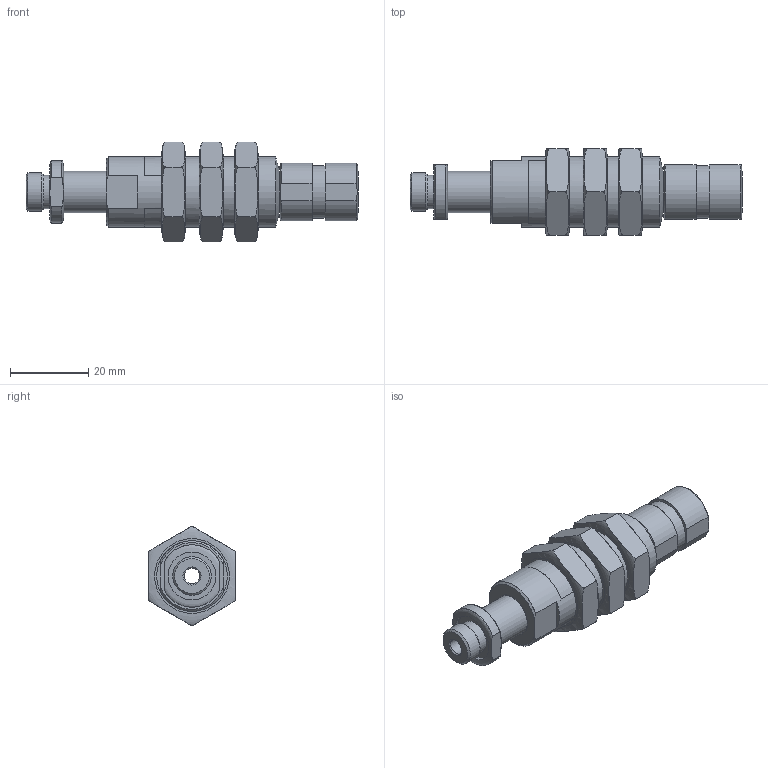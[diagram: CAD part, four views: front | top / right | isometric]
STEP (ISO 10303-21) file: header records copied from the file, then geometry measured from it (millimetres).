
FILE_DESCRIPTION( ( 'Unknown' ), '1' );
FILE_NAME( 'C:/Documents and Settings/Owner/官帕 拳搁/LEVEL SPRING HOMEPAGE/L1820TS/L1820TS.stp', 'Unknown', ( 'Unknown' ), ( 'Unknown' ), 'PSStep 10.0', 'Unknown', ' ' );
FILE_SCHEMA( ( 'AUTOMOTIVE_DESIGN { 1 0 10303 214 1 1 1 1 }' ) );
Length unit declared in the file: millimetre
Products named in the file (5): Assem1; SHAFT; HOUSING; UPPER; NUT(M18XP1)
Bounding box: 84.6 x 22 x 25.4 mm (x, y, z)
Surface area: 20626.6 mm2 (no closed solid volume)
Topology: 0 solids, 165 shells, 165 faces, 615 edges, 538 vertices
Faces by surface type: plane 72, cylinder 45, cone 20, revolution 18, torus 10
Full cylindrical faces by diameter (mm): 4 x2, 6.8 x2, 8 x4, 8.5 x6, 8.8 x2, 9.8 x4, 10.5 x4, 12.2 x2, 13.5 x2, 18 x5
Entity records: 4742 total; most frequent: CARTESIAN_POINT 1923, DIRECTION 474, ORIENTED_EDGE 240, EDGE_CURVE 240, VERTEX_POINT 240, AXIS2_PLACEMENT_3D 207, CIRCLE 132, FACE_BOUND 130
